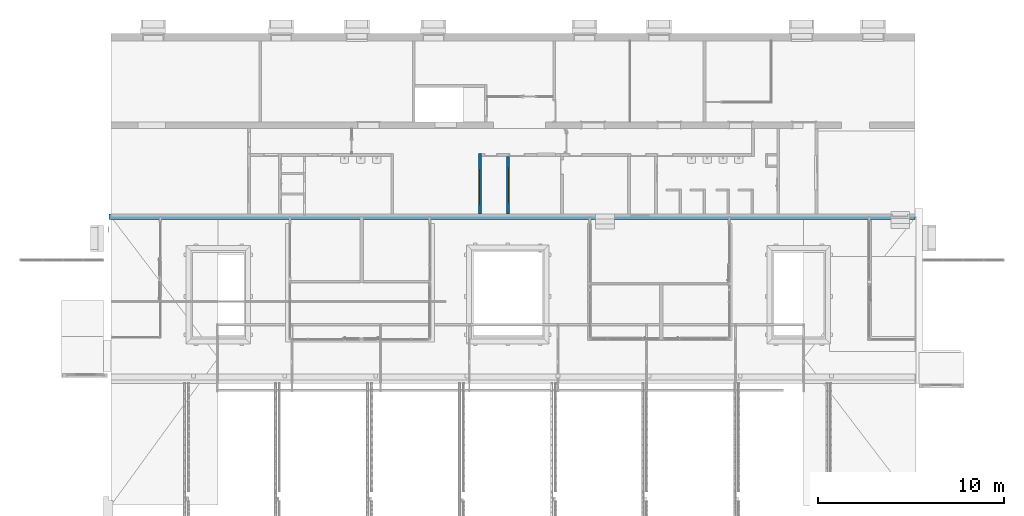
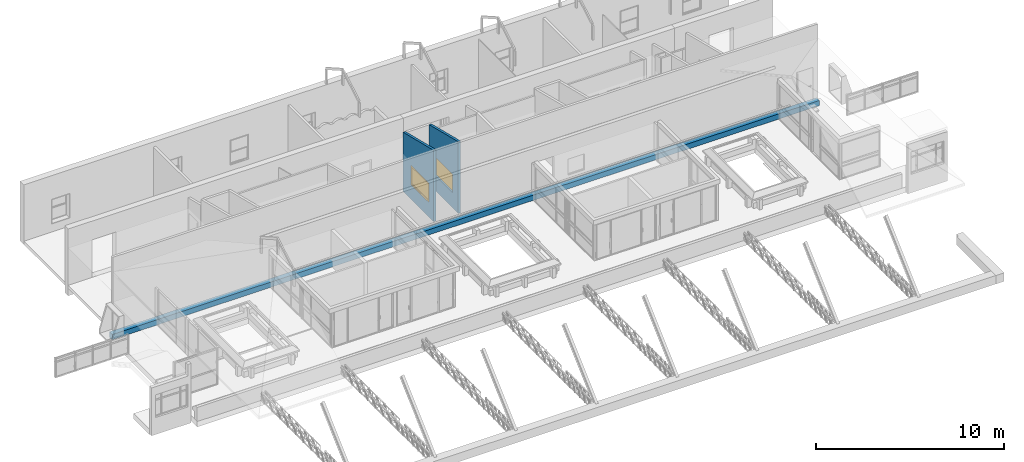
# One storey, part 119 of 153: 3 walls, 2 windows, 3 openings.
"""IFC4 building model written with IfcOpenShell, lengths in metres."""

from ifc_helpers import new_model, entity, si_unit, converted_unit, derived_unit, direction, frame, origin, place, context, subcontext, project, spatial, indexed_curve, outline, extrude, polygons, source, transform, mapped, material, constituent, constituent_set, type_object, type_shapes, element, fill, save


model = new_model("IFC4")

# Units and contexts
model_context = context("Model", 3, precision=1e-05, world=origin(), true_north=direction((6.123031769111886e-17, 1.0)))
body_context = subcontext(model_context, "Body", "Model", "MODEL_VIEW")
ifc_project = project(units=[si_unit("LENGTHUNIT", "METRE"), si_unit("AREAUNIT", "SQUARE_METRE"), si_unit("VOLUMEUNIT", "CUBIC_METRE"), converted_unit("PLANEANGLEUNIT", "DEGREE", entity("IfcRatioMeasure", 0.017453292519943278), si_unit("PLANEANGLEUNIT", "RADIAN"), dimensions=[0, 0, 0, 0, 0, 0, 0]), si_unit("MASSUNIT", "GRAM", prefix="KILO"), derived_unit("MASSDENSITYUNIT", [(si_unit("MASSUNIT", "GRAM", prefix="KILO"), 1), (si_unit("LENGTHUNIT", "METRE"), -3)]), derived_unit("MOMENTOFINERTIAUNIT", [(si_unit("LENGTHUNIT", "METRE"), 4)]), si_unit("TIMEUNIT", "SECOND"), si_unit("FREQUENCYUNIT", "HERTZ"), si_unit("THERMODYNAMICTEMPERATUREUNIT", "DEGREE_CELSIUS"), derived_unit("THERMALTRANSMITTANCEUNIT", [(si_unit("MASSUNIT", "GRAM", prefix="KILO"), 1), (si_unit("THERMODYNAMICTEMPERATUREUNIT", "KELVIN"), -1), (si_unit("TIMEUNIT", "SECOND"), -3)]), derived_unit("VOLUMETRICFLOWRATEUNIT", [(si_unit("LENGTHUNIT", "METRE"), 3), (si_unit("TIMEUNIT", "SECOND"), -1)]), derived_unit("MASSFLOWRATEUNIT", [(si_unit("MASSUNIT", "GRAM", prefix="KILO"), 1), (si_unit("TIMEUNIT", "SECOND"), -1)]), derived_unit("ROTATIONALFREQUENCYUNIT", [(si_unit("TIMEUNIT", "SECOND"), -1)]), si_unit("ELECTRICCURRENTUNIT", "AMPERE"), si_unit("ELECTRICVOLTAGEUNIT", "VOLT"), si_unit("POWERUNIT", "WATT"), si_unit("FORCEUNIT", "NEWTON", prefix="KILO"), si_unit("ILLUMINANCEUNIT", "LUX"), si_unit("LUMINOUSFLUXUNIT", "LUMEN"), si_unit("LUMINOUSINTENSITYUNIT", "CANDELA"), derived_unit("USERDEFINED", [(si_unit("MASSUNIT", "GRAM", prefix="KILO"), -1), (si_unit("LENGTHUNIT", "METRE"), -2), (si_unit("TIMEUNIT", "SECOND"), 3), (si_unit("LUMINOUSFLUXUNIT", "LUMEN"), 1)]), derived_unit("SOUNDPOWERUNIT", [(si_unit("MASSUNIT", "GRAM", prefix="KILO"), 1), (si_unit("LENGTHUNIT", "METRE"), 2), (si_unit("TIMEUNIT", "SECOND"), -3)]), derived_unit("SOUNDPRESSUREUNIT", [(si_unit("MASSUNIT", "GRAM", prefix="KILO"), 1), (si_unit("LENGTHUNIT", "METRE"), -1), (si_unit("TIMEUNIT", "SECOND"), -2)]), derived_unit("LINEARVELOCITYUNIT", [(si_unit("LENGTHUNIT", "METRE"), 1), (si_unit("TIMEUNIT", "SECOND"), -1)]), si_unit("PRESSUREUNIT", "PASCAL"), derived_unit("USERDEFINED", [(si_unit("LENGTHUNIT", "METRE"), -2), (si_unit("MASSUNIT", "GRAM", prefix="KILO"), 1), (si_unit("TIMEUNIT", "SECOND"), -2)]), derived_unit("LINEARFORCEUNIT", [(si_unit("MASSUNIT", "GRAM", prefix="KILO"), 1), (si_unit("LENGTHUNIT", "METRE"), 1), (si_unit("TIMEUNIT", "SECOND"), -2), (si_unit("LENGTHUNIT", "METRE"), -1)]), derived_unit("PLANARFORCEUNIT", [(si_unit("MASSUNIT", "GRAM", prefix="KILO"), 1), (si_unit("LENGTHUNIT", "METRE"), 1), (si_unit("TIMEUNIT", "SECOND"), -2), (si_unit("LENGTHUNIT", "METRE"), -2)])], contexts=[model_context])

# Site, building, storey
site_placement = place(None, origin())
site = spatial("IfcSite", under=ifc_project, at=site_placement, Name="Superficie", CompositionType="ELEMENT")
building_placement = place(site_placement, origin())
building = spatial("IfcBuilding", under=site, at=building_placement, CompositionType="ELEMENT")
storey_placement = place(building_placement, frame((0.0, 0.0, 3.5999999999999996)))
storey = spatial("IfcBuildingStorey", under=building, at=storey_placement, Name="Nivel 1", CompositionType="ELEMENT", Elevation=3.5999999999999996)

# Wall
ifc_material_1 = material(Name="Muro por defecto", Category="Varios")
wall_type_1 = type_object("IfcWallType", Name="Muro básico:Por defecto - 30 cm", PredefinedType="STANDARD")
wall_1_placement = place(storey_placement, frame((20.586799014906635, 5.625829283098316, 0.0), z_axis=(0.0, 0.0, 1.0), x_axis=(-1.0, 0.0, 0.0)))
element("IfcWall", 1, at=wall_1_placement, inside=storey, type_object=wall_type_1, material=ifc_material_1, Name="Muro básico:Por defecto - 30 cm", ObjectType="Muro básico:Por defecto - 30 cm", PredefinedType="NOTDEFINED", context=body_context, shape_type="SweptSolid", body=[
    extrude(outline(indexed_curve([(43.350000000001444, 0.15000000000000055), (-4.833559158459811e-16, 0.15000000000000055), (4.833559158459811e-16, -0.15000000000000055), (43.350000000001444, -0.15000000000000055), (43.350000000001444, 0.15000000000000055)], self_intersect=False)), origin(), (0.0, 0.0, 1.0), 0.3400000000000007),
])

# Wall, openings, window
wall_type_2 = type_object("IfcWallType", Name="Muro básico:Por defecto - 15 cm 2", PredefinedType="STANDARD")
wall_2_placement = place(storey_placement, frame((-1.303998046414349, 5.775829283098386, 0.5200000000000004), z_axis=(0.0, 0.0, 1.0), x_axis=(0.0, 1.0, 0.0)))
wall_2 = element("IfcWall", 2, at=wall_2_placement, inside=storey, type_object=wall_type_2, material=ifc_material_1, Name="Muro básico:Por defecto - 15 cm 2", ObjectType="Muro básico:Por defecto - 15 cm 2", PredefinedType="NOTDEFINED", context=body_context, shape_type="Tessellation", body=[
    polygons([(0.0, -0.07500000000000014, 4.655046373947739), (0.0, -0.07500000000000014, -5.414335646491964e-16), (3.099999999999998, -0.07500000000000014, -5.414335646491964e-16), (3.099999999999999, -0.07500000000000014, 2.0999999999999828), (3.099999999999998, -0.07500000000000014, 3.65), (3.099999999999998, -0.07500000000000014, 3.859549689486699), (3.099999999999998, -0.07500000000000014, 3.88212956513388), (0.6000000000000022, -0.075, 0.9799999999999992), (0.6000000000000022, -0.075, 2.1800000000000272), (2.5, -0.07499999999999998, 2.1800000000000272), (2.5, -0.07499999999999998, 0.9799999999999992), (1.0828671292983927e-15, 0.07500000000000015, -5.414335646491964e-16), (0.0, 0.07499999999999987, 4.655046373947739), (3.099999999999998, 0.07499999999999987, 3.88212956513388), (3.099999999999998, 0.07499999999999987, -5.414335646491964e-16), (0.6000000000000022, 0.07500000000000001, 0.9799999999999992), (2.5, 0.07500000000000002, 0.9799999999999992), (2.5, 0.07500000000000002, 2.1800000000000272), (0.6000000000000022, 0.07500000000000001, 2.1800000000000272), (0.0, 0.045000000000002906, -5.414335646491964e-16), (3.099999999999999, 1.4539474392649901e-16, -5.414335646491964e-16)], [[[1, 2, 3, 4, 5, 6, 7], [8, 9, 10, 11]], [[12, 13, 14, 15], [16, 17, 18, 19]], [[1, 7, 14, 13]], [[1, 13, 12, 20, 2]], [[3, 21, 15, 14, 7, 6, 5, 4]], [[3, 2, 20, 12, 15, 21]], [[9, 8, 16, 19]], [[10, 9, 19, 18]], [[11, 10, 18, 17]], [[8, 11, 17, 16]]], closed=True),
])
opening_1_placement = place(wall_2_placement, origin())
element("IfcOpeningElement", 3, at=opening_1_placement, cuts=wall_2, Name="Muro básico:Por defecto - 15 cm 2", PredefinedType="OPENING", context=body_context, shape_type="SweptSolid", body=[
    extrude(outline(indexed_curve([(-0.07499999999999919, -1.0499999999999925), (0.07500000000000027, -1.0499999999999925), (0.07500000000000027, 1.049999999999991), (-0.07499999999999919, 1.049999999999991), (-0.07499999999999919, -1.0499999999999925)], self_intersect=False)), frame((3.1749999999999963, -0.9049999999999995, 1.049999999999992), z_axis=(0.0, 1.0, 0.0), x_axis=(-1.0, 0.0, 0.0)), (0.0, 0.0, 1.0), 0.8299999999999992),
])
opening_2_placement = place(wall_2_placement, frame((0.6000000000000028, -0.07500000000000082, 0.9799999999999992)))
opening_2 = element("IfcOpeningElement", 4, at=opening_2_placement, cuts=wall_2, Name="Ventana simple fija con cubrejuntas interior:1900x 1200mm 2:1", PredefinedType="OPENING", context=body_context, shape_type="SweptSolid", body=[
    extrude(outline(indexed_curve([(0.0, -4.289725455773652e-34), (1.2000000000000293, -4.289725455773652e-34), (1.2000000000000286, 1.8999999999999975), (0.0, 1.8999999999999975), (0.0, -4.289725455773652e-34)], self_intersect=False)), frame((0.0, 0.0, 0.0), z_axis=(0.0, 1.0, 0.0), x_axis=(0.0, 0.0, 1.0)), (0.0, 0.0, 1.0), 0.14999999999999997),
])
ifc_material_2 = material(Name="Madera - Castaño", Category="Madera")
ifc_constituent_1 = constituent(ifc_material_2, Name="Madera - Castaño", Category="Madera")
ifc_material_3 = material(Name="Vidrio", Category="Vidrio")
ifc_constituent_2 = constituent(ifc_material_3, Name="Vidrio", Category="Vidrio")
ifc_constituent_set_1 = constituent_set(constituents=[ifc_constituent_1, ifc_constituent_2], Name="MaterialConstituentSet")
ifc_constituent_3 = constituent(ifc_material_2, Name="Marco/montante", Category="Madera")
ifc_constituent_4 = constituent(ifc_material_3, Name="Cristal", Category="Vidrio")
ifc_constituent_set_2 = constituent_set(constituents=[ifc_constituent_3, ifc_constituent_4], Name="MaterialConstituentSet")
window_type = type_object("IfcWindowType", Name="Ventana simple fija con cubrejuntas interior:1900x 1200mm 2", PartitioningType="NOTDEFINED", PredefinedType="WINDOW", material=ifc_constituent_set_2)
shared_shape = source(origin(), body_context, "Body", "Tessellation", [
    polygons([(1.8999999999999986, 0.04999999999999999, 1.1999999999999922), (1.899999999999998, -1.6919798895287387e-17, 1.1999999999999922), (1.899999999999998, -6.446443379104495e-15, -6.767919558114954e-16), (1.899999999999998, 0.0499999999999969, -6.767919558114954e-16), (0.0, -1.6919798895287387e-17, 1.1999999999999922), (0.0, -4.390687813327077e-15, -6.767919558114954e-16), (0.03500000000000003, -1.6919798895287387e-17, 1.164999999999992), (1.8649999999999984, -1.6919798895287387e-17, 1.164999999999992), (1.8649999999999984, -1.6919798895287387e-17, 0.05499999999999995), (0.03500000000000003, -1.6919798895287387e-17, 0.05499999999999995), (0.0, 0.04999999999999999, -6.767919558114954e-16), (-1.353583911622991e-16, 0.04999999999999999, 1.1999999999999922), (1.8399999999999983, 0.04999999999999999, 1.1399999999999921), (0.060000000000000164, 0.04999999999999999, 1.1399999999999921), (0.060000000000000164, 0.04999999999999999, 0.08000000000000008), (1.839999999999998, 0.04999999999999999, 0.07999999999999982), (1.8399999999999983, 0.03999999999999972, 1.1399999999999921), (1.8399999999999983, 0.03999999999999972, 0.07999999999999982), (0.060000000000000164, 0.03999999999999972, 0.08000000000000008), (0.060000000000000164, 0.03999999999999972, 1.1399999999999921), (1.8649999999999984, 0.03999999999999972, 1.164999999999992), (0.03500000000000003, 0.03999999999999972, 1.164999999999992), (0.03500000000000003, 0.03999999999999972, 0.05499999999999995), (1.8649999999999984, 0.03999999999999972, 0.05499999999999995)], [[[1, 2, 3, 4]], [[3, 2, 5, 6], [7, 8, 9, 10]], [[6, 11, 4, 3]], [[11, 12, 1, 4], [13, 14, 15, 16]], [[17, 13, 16, 18]], [[18, 16, 15, 19]], [[21, 22, 23, 24], [20, 17, 18, 19]], [[8, 21, 24, 9]], [[9, 24, 23, 10]], [[14, 20, 19, 15]], [[22, 7, 10, 23]], [[5, 12, 11, 6]], [[12, 5, 2, 1]], [[20, 14, 13, 17]], [[7, 22, 21, 8]]], closed=True),
    polygons([(1.8400000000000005, -1.921243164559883e-14, 1.1399999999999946), (1.8400000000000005, 0.026000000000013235, 1.1399999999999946), (1.8400000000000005, 0.026000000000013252, 0.07999999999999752), (1.8400000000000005, -1.921243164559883e-14, 0.07999999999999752), (1.8650000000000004, 0.02600000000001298, 1.1649999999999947), (1.8650000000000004, 0.02600000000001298, 0.054999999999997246), (0.034999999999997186, 0.02600000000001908, 0.05499999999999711), (0.034999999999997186, 0.02600000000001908, 1.1649999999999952), (0.05999999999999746, 0.026000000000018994, 1.1399999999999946), (0.05999999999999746, 0.026000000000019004, 0.07999999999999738), (0.0599999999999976, -1.3273582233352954e-14, 0.07999999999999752), (0.05999999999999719, -1.3282042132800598e-14, 1.1399999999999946), (0.034999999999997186, -1.3188983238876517e-14, 1.1649999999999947), (0.034999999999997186, -1.3188983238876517e-14, 0.054999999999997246), (1.8650000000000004, -1.9110912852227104e-14, 0.054999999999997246), (1.8650000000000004, -1.912783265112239e-14, 1.1649999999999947)], [[[1, 2, 3, 4]], [[5, 6, 7, 8], [9, 10, 3, 2]], [[4, 3, 10, 11]], [[13, 14, 15, 16], [1, 4, 11, 12]], [[5, 16, 15, 6]], [[6, 15, 14, 7]], [[11, 10, 9, 12]], [[7, 14, 13, 8]], [[12, 9, 2, 1]], [[8, 13, 16, 5]]], closed=True),
    polygons([(0.04499999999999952, 0.026000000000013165, 0.06499999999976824), (0.04499999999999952, 0.04000000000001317, 0.06499999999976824), (1.8549999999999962, 0.04000000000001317, 0.06499999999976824), (1.8549999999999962, 0.026000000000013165, 0.06499999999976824), (0.04499999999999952, 0.026000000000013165, 1.1549999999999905), (0.04499999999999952, 0.04000000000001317, 1.1549999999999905), (1.8549999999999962, 0.04000000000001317, 1.1549999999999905), (1.8549999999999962, 0.026000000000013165, 1.1549999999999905)], [[[1, 2, 3, 4]], [[5, 6, 2, 1]], [[6, 7, 3, 2]], [[7, 8, 4, 3]], [[8, 5, 1, 4]], [[5, 8, 7, 6]]], closed=True),
    polygons([(1.889999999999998, -0.004999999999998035, 1.1899999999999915), (1.889999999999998, -1.6919798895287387e-17, 1.1899999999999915), (1.8899999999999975, -1.6919798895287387e-17, 0.009999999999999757), (1.889999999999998, -0.004999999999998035, 0.009999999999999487), (1.9249999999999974, -1.6919798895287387e-17, 1.2249999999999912), (1.9249999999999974, -1.6919798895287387e-17, -0.025000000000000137), (-0.02499999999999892, -1.6919798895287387e-17, -0.025000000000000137), (-0.02499999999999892, -1.6919798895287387e-17, 1.2249999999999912), (0.010000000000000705, -1.6919798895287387e-17, 1.1899999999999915), (0.010000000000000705, -1.6919798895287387e-17, 0.009999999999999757), (0.010000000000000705, -0.004999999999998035, 0.009999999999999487), (0.010000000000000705, -0.004999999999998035, 1.1899999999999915), (-0.02499999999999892, -0.004999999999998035, 1.2249999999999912), (-0.02499999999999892, -0.004999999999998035, -0.025000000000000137), (1.9249999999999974, -0.004999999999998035, -0.025000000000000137), (1.9249999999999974, -0.004999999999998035, 1.2249999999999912)], [[[1, 2, 3, 4]], [[5, 6, 7, 8], [9, 10, 3, 2]], [[4, 3, 10, 11]], [[13, 14, 15, 16], [1, 4, 11, 12]], [[5, 16, 15, 6]], [[6, 15, 14, 7]], [[11, 10, 9, 12]], [[7, 14, 13, 8]], [[12, 9, 2, 1]], [[8, 13, 16, 5]]], closed=True),
])
type_shapes(window_type, [shared_shape])
window_1_placement = place(opening_2_placement, origin())
window_1 = element("IfcWindow", 5, at=window_1_placement, inside=storey, type_object=window_type, material=ifc_constituent_set_1, Name="Ventana simple fija con cubrejuntas interior:1900x 1200mm 2", ObjectType="Ventana simple fija con cubrejuntas interior:1900x 1200mm 2", OverallHeight=1.2000000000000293, OverallWidth=1.899999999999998, PartitioningType="NOTDEFINED", PredefinedType="WINDOW", context=body_context, shape_type="MappedRepresentation", body=[
    mapped(shared_shape, transform((0.0, 0.0, 0.0), scale=1.0)),
])
fill(opening_2, window_1)

# Wall, opening, window
wall_3_placement = place(storey_placement, frame((-2.8139980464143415, 9.02582928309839, 0.5199999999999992), z_axis=(0.0, 0.0, 1.0), x_axis=(0.0, -1.0, 0.0)))
wall_3 = element("IfcWall", 6, at=wall_3_placement, inside=storey, type_object=wall_type_2, material=ifc_material_1, Name="Muro básico:Por defecto - 15 cm 2", ObjectType="Muro básico:Por defecto - 15 cm 2", PredefinedType="NOTDEFINED", context=body_context, shape_type="Tessellation", body=[
    polygons([(0.862500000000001, -0.07500000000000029, 0.9800000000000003), (0.862500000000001, -0.07500000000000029, 2.1800000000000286), (2.762499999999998, -0.07500000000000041, 2.1800000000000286), (2.762499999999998, -0.07500000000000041, 0.9800000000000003), (-1.0828671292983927e-15, -0.07500000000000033, 5.414335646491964e-16), (3.2500000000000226, -0.07500000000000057, 5.414335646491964e-16), (3.2499999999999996, -0.07500000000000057, 4.624813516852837), (-1.0828671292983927e-15, -0.07500000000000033, 3.8290934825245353), (-1.0828671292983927e-15, 0.07499999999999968, 5.414335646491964e-16), (-1.0828671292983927e-15, 0.07499999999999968, 3.8290934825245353), (3.2499999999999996, 0.07499999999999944, 4.624813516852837), (3.2499999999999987, 0.07499999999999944, 5.414335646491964e-16), (0.14999999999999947, 0.07499999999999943, 5.414335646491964e-16), (0.862500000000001, 0.07499999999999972, 0.9800000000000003), (2.762499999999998, 0.0749999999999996, 0.9800000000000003), (2.762499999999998, 0.0749999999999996, 2.1800000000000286), (0.862500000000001, 0.07499999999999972, 2.1800000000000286), (3.2499999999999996, -0.03499999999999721, 5.414335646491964e-16)], [[[5, 6, 7, 8], [1, 2, 3, 4]], [[9, 10, 11, 12, 13], [14, 15, 16, 17]], [[8, 7, 11, 10]], [[5, 8, 10, 9]], [[6, 18, 12, 11, 7]], [[2, 1, 14, 17]], [[3, 2, 17, 16]], [[4, 3, 16, 15]], [[1, 4, 15, 14]], [[6, 5, 9, 13, 12, 18]]], closed=True),
])
opening_3_placement = place(wall_3_placement, frame((0.8625000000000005, -0.0750000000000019, 0.9800000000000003)))
opening_3 = element("IfcOpeningElement", 7, at=opening_3_placement, cuts=wall_3, Name="Ventana simple fija con cubrejuntas interior:1900x 1200mm 2:1", PredefinedType="OPENING", context=body_context, shape_type="SweptSolid", body=[
    extrude(outline(indexed_curve([(0.0, -7.875247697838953e-31), (1.2000000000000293, -7.875247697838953e-31), (1.2000000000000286, 1.8999999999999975), (0.0, 1.8999999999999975), (0.0, -7.875247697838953e-31)], self_intersect=False)), frame((0.0, 0.0, 0.0), z_axis=(0.0, 1.0, 0.0), x_axis=(0.0, 0.0, 1.0)), (0.0, 0.0, 1.0), 0.14999999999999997),
])
ifc_constituent_5 = constituent(ifc_material_2, Name="Madera - Castaño", Category="Madera")
ifc_constituent_6 = constituent(ifc_material_3, Name="Vidrio", Category="Vidrio")
ifc_constituent_set_3 = constituent_set(constituents=[ifc_constituent_5, ifc_constituent_6], Name="MaterialConstituentSet")
window_2_placement = place(opening_3_placement, origin())
window_2 = element("IfcWindow", 8, at=window_2_placement, inside=storey, type_object=window_type, material=ifc_constituent_set_3, Name="Ventana simple fija con cubrejuntas interior:1900x 1200mm 2", ObjectType="Ventana simple fija con cubrejuntas interior:1900x 1200mm 2", OverallHeight=1.2000000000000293, OverallWidth=1.8999999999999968, PartitioningType="NOTDEFINED", PredefinedType="WINDOW", context=body_context, shape_type="MappedRepresentation", body=[
    mapped(shared_shape, transform((0.0, 0.0, 0.0), scale=1.0)),
])
fill(opening_3, window_2)

save(model, "model.ifc")
